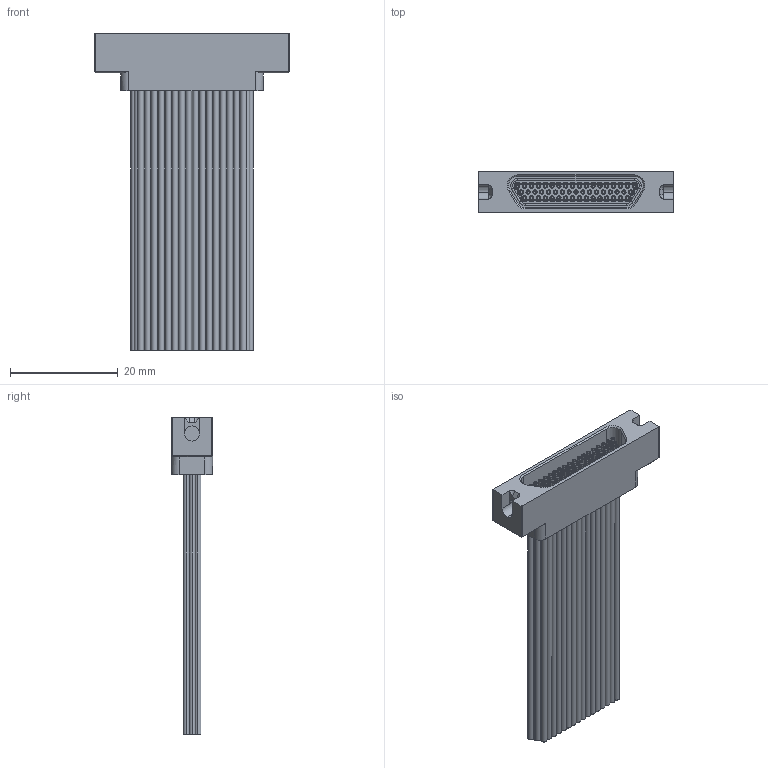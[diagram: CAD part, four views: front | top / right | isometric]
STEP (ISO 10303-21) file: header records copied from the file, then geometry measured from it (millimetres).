
FILE_DESCRIPTION (( 'STEP AP214' ), '1' );
FILE_NAME ('A99150-513 REV A.STEP', '2021-01-20T20:18:17', ( '' ), ( '' ), 'SwSTEP 2.0', 'SolidWorks 2019', '' );
FILE_SCHEMA (( 'AUTOMOTIVE_DESIGN' ));
Length unit declared in the file: inch
Products named in the file (1): A99150-513 REV A
Bounding box: 36.2 x 7.63 x 58.88 mm (x, y, z)
Volume: 4323.6 mm3; surface area: 12445.7 mm2
Topology: 1 solids, 53 shells, 1769 faces, 3819 edges, 2471 vertices
Faces by surface type: cylinder 938, plane 584, torus 184, bspline 54, cone 9
Entity records: 74878 total; most frequent: CARTESIAN_POINT 11343, DIRECTION 9356, ORIENTED_EDGE 7626, AXIS2_PLACEMENT_3D 3959, EDGE_CURVE 3813, VERTEX_POINT 2471, CIRCLE 2243, EDGE_LOOP 2194
